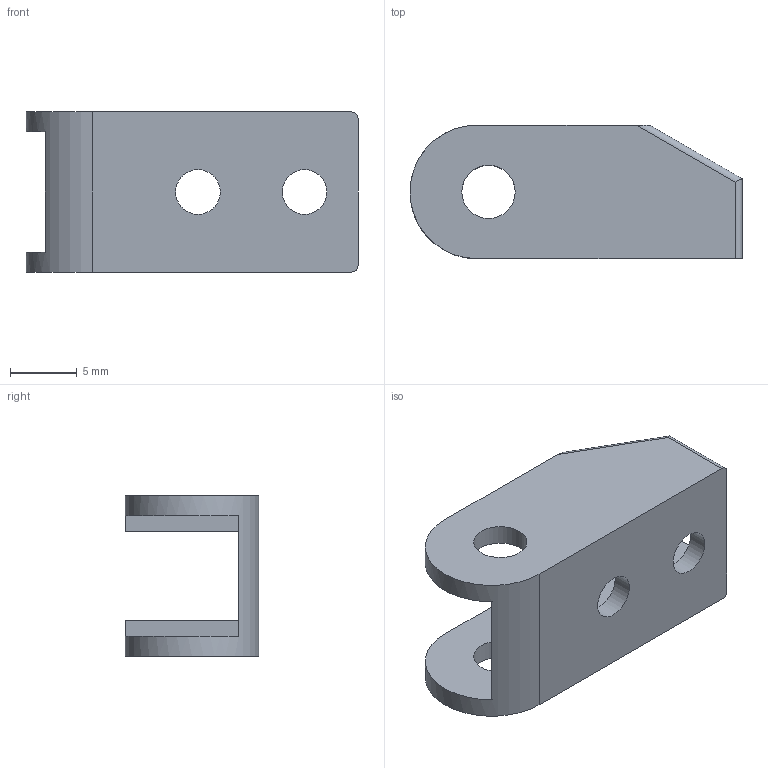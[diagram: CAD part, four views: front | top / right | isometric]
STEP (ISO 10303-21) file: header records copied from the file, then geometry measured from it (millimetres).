
FILE_DESCRIPTION((''),'2;1');
FILE_NAME('C:\Uebbing\PARAMETERKETTEN\KOLIBRI\Kol_10_012_4\Kol_10_012_4_Anschluss_Bohrung 1576.stp','2011-11-02T10:50:05',('Uebbing'),(''),'Autodesk Inventor 10','Autodesk Inventor 10','');
FILE_SCHEMA(('AUTOMOTIVE_DESIGN { 1 0 10303 214 1 1 1 1 }'));
Length unit declared in the file: millimetre
Products named in the file (1): Kol_10_012_4_Anschluss_Bohrung 1576
Bounding box: 24.89 x 10 x 12 mm (x, y, z)
Volume: 1130.6 mm3; surface area: 1468.3 mm2
Topology: 1 solids, 1 shells, 24 faces, 65 edges, 43 vertices
Faces by surface type: plane 15, cylinder 9
Full cylindrical faces by diameter (mm): 3.35 x2, 4 x2
Entity records: 769 total; most frequent: DIRECTION 128, CARTESIAN_POINT 127, ORIENTED_EDGE 120, EDGE_CURVE 60, AXIS2_PLACEMENT_3D 43, VERTEX_POINT 42, VECTOR 42, LINE 42
